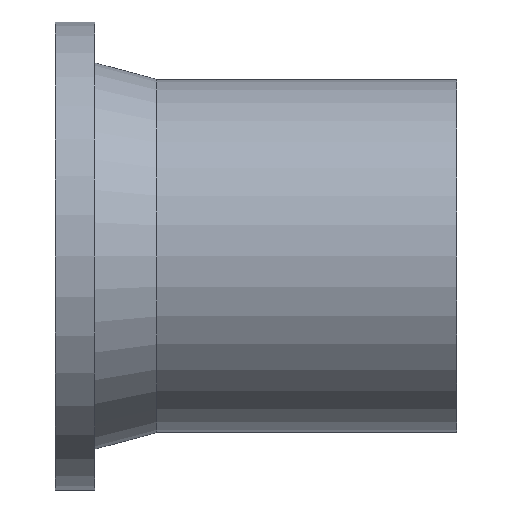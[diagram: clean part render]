
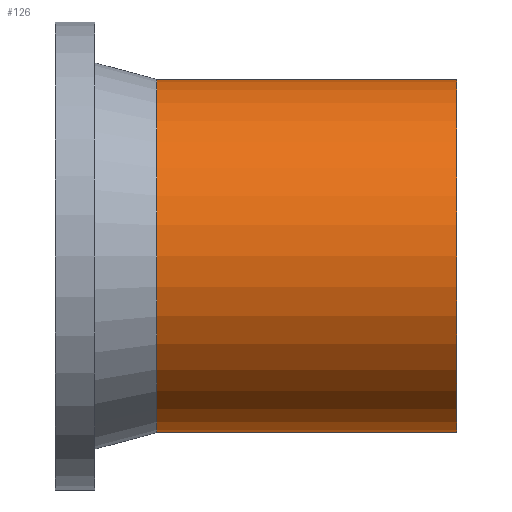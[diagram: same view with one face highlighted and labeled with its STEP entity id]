
A CAD part, front view. The second image highlights one B-rep face of the part: STEP entity #126.
In plain terms, the highlighted cylindrical face has radius 80 mm (diameter 160 mm), a full revolution.
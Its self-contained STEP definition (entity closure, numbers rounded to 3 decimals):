
#77=CARTESIAN_POINT('',(46.,80.,0.));
#78=VERTEX_POINT('',#77);
#79=CARTESIAN_POINT('',(46.,0.,0.));
#80=DIRECTION('',(1.,0.,0.));
#81=DIRECTION('',(0.,1.,0.));
#82=AXIS2_PLACEMENT_3D('',#79,#80,#81);
#83=CIRCLE('',#82,80.);
#84=EDGE_CURVE('',#78,#78,#83,.T.);
#102=CARTESIAN_POINT('',(182.,80.,0.));
#103=VERTEX_POINT('',#102);
#104=CARTESIAN_POINT('',(182.,0.,0.));
#105=DIRECTION('',(1.,0.,0.));
#106=DIRECTION('',(0.,1.,0.));
#107=AXIS2_PLACEMENT_3D('',#104,#105,#106);
#108=CIRCLE('',#107,80.);
#109=EDGE_CURVE('',#103,#103,#108,.T.);
#110=ORIENTED_EDGE('',*,*,#109,.F.);
#111=CARTESIAN_POINT('',(114.,80.,0.));
#112=DIRECTION('',(1.,0.,0.));
#113=VECTOR('',#112,80.);
#114=LINE('',#111,#113);
#115=EDGE_CURVE('',#78,#103,#114,.T.);
#116=ORIENTED_EDGE('',*,*,#115,.F.);
#117=ORIENTED_EDGE('',*,*,#84,.T.);
#118=ORIENTED_EDGE('',*,*,#115,.T.);
#119=EDGE_LOOP('',(#110,#116,#117,#118));
#120=FACE_OUTER_BOUND('',#119,.T.);
#121=CARTESIAN_POINT('',(114.,0.,0.));
#122=DIRECTION('',(1.,0.,0.));
#123=DIRECTION('',(0.,1.,0.));
#124=AXIS2_PLACEMENT_3D('',#121,#122,#123);
#125=CYLINDRICAL_SURFACE('',#124,80.);
#126=ADVANCED_FACE('',(#120),#125,.T.);
